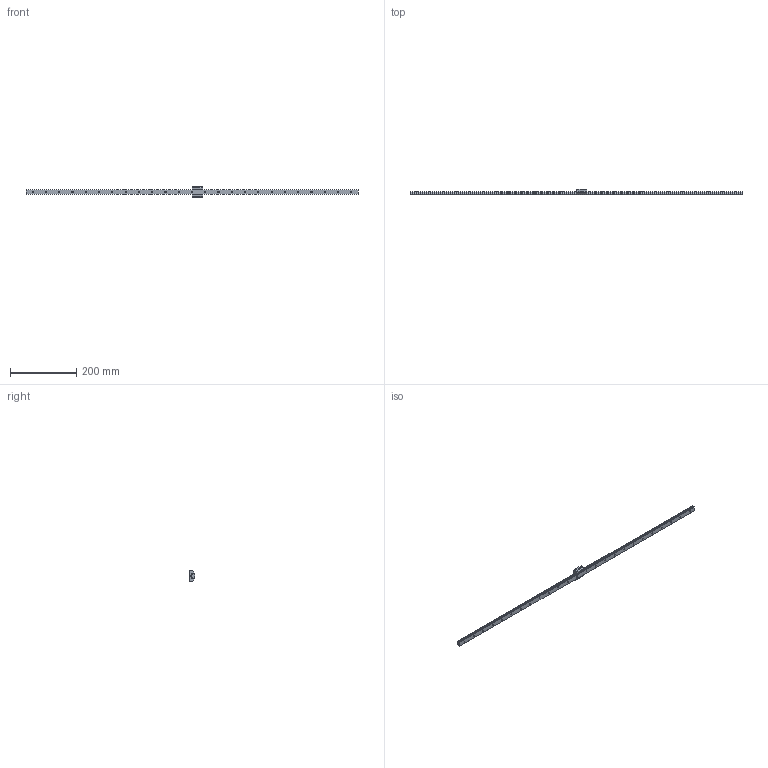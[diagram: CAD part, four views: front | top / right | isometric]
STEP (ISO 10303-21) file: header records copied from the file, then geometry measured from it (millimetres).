
FILE_DESCRIPTION(/* description */ ('STEP AP214'),/* implementation_level */ '2;1');
FILE_NAME(/* name */ 'SRS15SSS-1000LM_G20_0_500_0_0_0_1',/* time_stamp */ '2024-01-22T14:05:59+01:00',/* author */ ('License CC BY-ND 4.0'),/* organization */ ('CADENAS'),/* preprocessor_version */ 'ST-DEVELOPER v19.3',/* originating_system */ 'PARTsolutions',/* authorisation */ ' ');
FILE_SCHEMA (('AUTOMOTIVE_DESIGN {1 0 10303 214 3 1 1}'));
Length unit declared in the file: millimetre
Products named in the file (3): SRS15SSS-1000LM_G20_0_500_0_0_0_1; SRS15S100020 Track; SRS15SSS1 Slider
Assembly tree (2 placements, depth 2):
  SRS15SSS-1000LM_G20_0_500_0_0_0_1
    SRS15S100020 Track
    SRS15SSS1 Slider
Bounding box: 1000 x 16 x 32 mm (x, y, z)
Volume: 130979 mm3; surface area: 55358.4 mm2
Topology: 2 solids, 2 shells, 197 faces, 480 edges, 314 vertices
Faces by surface type: plane 123, cylinder 70, cone 4
Full cylindrical faces by diameter (mm): 2.459 x2, 3 x2, 3.5 x25, 6 x25
Entity records: 5629 total; most frequent: DIRECTION 960, CARTESIAN_POINT 930, ORIENTED_EDGE 836, EDGE_CURVE 418, AXIS2_PLACEMENT_3D 342, FACE_BOUND 334, EDGE_LOOP 332, VERTEX_POINT 312
